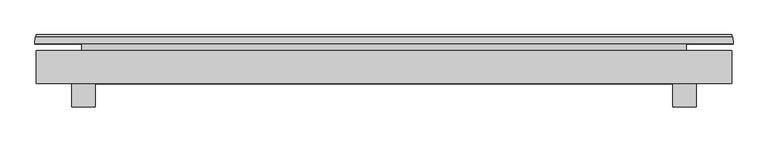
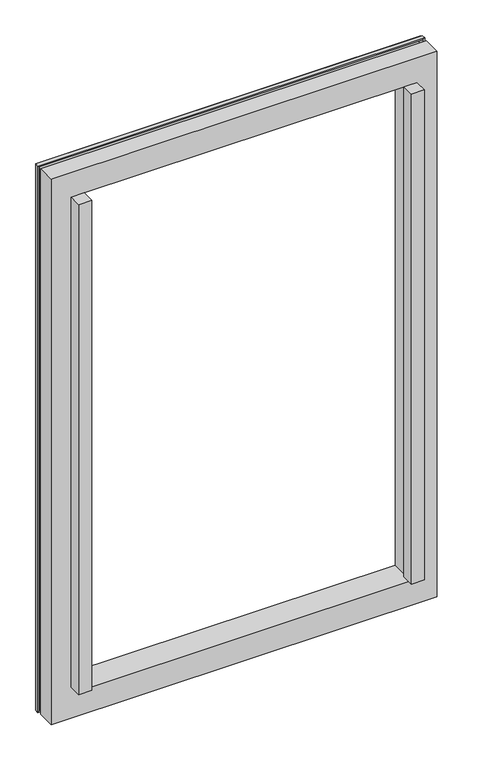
"""IFC4 building model written with IfcOpenShell, lengths in millimetres: plate geometry, Window-Profile-Danpal-NM : Window-Profile-Danpal-NM."""

from ifc_helpers import new_model, si_unit, origin, origin_with_axes, place, context, project, spatial, polyline, outline, extrude, faceted_brep, source, transform, mapped, element, save


def plate_991e255f(model_context):
    return source(origin(), model_context, "Body", "SolidModel", [
        extrude(outline(polyline([(491.2, -68.5), (531.2, -68.5), (531.2, -108.5), (491.2, -108.5), (491.2, -68.5)])), origin_with_axes(), (0.0, 0.0, 1.0), 1589.047587),
        extrude(outline(polyline([(-491.2, -68.5), (-491.2, -108.5), (-531.2, -108.5), (-531.2, -68.5), (-491.2, -68.5)])), origin_with_axes(), (0.0, 0.0, 1.0), 1589.047587),
        faceted_brep([(591.9784606, -12.2916596, 1668.8260476), (591.9784606, -68.5048031, 1668.8260476), (591.9784606, -68.5048031, -100.7784606), (591.9784606, -12.2916596, -100.7784606), (582.0282946, -13.60242, 1658.8758816), (582.0282946, -12.2916596, 1658.8758816), (582.0282946, -12.2916596, -90.8282946), (582.0282946, -13.60242, -90.8282946), (590.6582695, -27.650629, 1667.5058565), (590.6582695, -13.60242, 1667.5058565), (590.6582695, -13.60242, -99.4582695), (590.6582695, -27.650629, -99.4582695), (526.8000003, -15.804803, 1603.6475873), (526.8000003, -27.650629, 1603.6475873), (526.8000003, -27.650629, -35.6000003), (526.8000003, -15.804803, -35.6000003), (514.2000001, 7.107474, 1591.0475872), (514.2000001, -15.804803, 1591.0475872), (514.2000001, -15.804803, -23.0000001), (514.2000001, 7.107474, -23.0000001), (533.7478166, 12.307474, 1610.5954036), (533.7478166, 7.107474, 1610.5954036), (533.7478166, 7.107474, -42.5478166), (533.7478166, 12.307474, -42.5478166), (588.8478166, 11.1060971, 1665.6954036), (588.8478166, 12.307474, 1665.6954036), (588.8478166, 12.307474, -97.6478166), (588.8478166, 11.1060971, -97.6478166), (583.2577359, 9.0073407, 1660.1053229), (583.2577359, 9.0073407, -92.0577359), (588.9540801, 0.3086044, 1665.8016671), (588.9540801, 0.3086044, -97.7540801), (594.0779002, -0.4956236, 1670.9254872), (594.0779002, -0.4956236, -102.8779002), (593.3597999, 11.1306787, 1670.2073869), (593.3597999, 11.1306787, -102.1597999), (591.5474874, 14.7895984, 1668.3950744), (591.5474874, 11.1306787, 1668.3950744), (591.5474874, 11.1306787, -100.3474874), (591.5474874, 14.7895984, -100.3474874), (512.2, -68.5048031, 1589.047587), (512.2, 14.7944308, 1589.047587), (512.2, 14.7944308, -21.0), (512.2, -68.5048031, -21.0), (-591.9784606, -68.5048031, -100.7784606), (-591.9784606, -12.2916596, -100.7784606), (-582.0282946, -12.2916596, -90.8282946), (-582.0282946, -13.60242, -90.8282946), (-590.6582695, -13.60242, -99.4582695), (-590.6582695, -27.650629, -99.4582695), (-526.8000003, -27.650629, -35.6000003), (-526.8000003, -15.804803, -35.6000003), (-514.2000001, -15.804803, -23.0000001), (-514.2000001, 7.107474, -23.0000001), (-533.7478166, 7.107474, -42.5478166), (-533.7478166, 12.307474, -42.5478166), (-588.8478166, 12.307474, -97.6478166), (-588.8478166, 11.1060971, -97.6478166), (-583.2577359, 9.0073407, -92.0577359), (-588.9540801, 0.3086044, -97.7540801), (-594.0779002, -0.4956236, -102.8779002), (-593.3597999, 11.1306787, -102.1597999), (-591.5474874, 11.1306787, -100.3474874), (-591.5474874, 14.7895984, -100.3474874), (-512.2, 14.7944308, -21.0), (-512.2, -68.5048031, -21.0), (-591.9784606, -68.5048031, 1668.8260476), (-591.9784606, -12.2916596, 1668.8260476), (-582.0282946, -12.2916596, 1658.8758816), (-582.0282946, -13.60242, 1658.8758816), (-590.6582695, -13.60242, 1667.5058565), (-590.6582695, -27.650629, 1667.5058565), (-526.8000003, -27.650629, 1603.6475873), (-526.8000003, -15.804803, 1603.6475873), (-514.2000001, -15.804803, 1591.0475872), (-514.2000001, 7.107474, 1591.0475872), (-533.7478166, 7.107474, 1610.5954036), (-533.7478166, 12.307474, 1610.5954036), (-588.8478166, 12.307474, 1665.6954036), (-588.8478166, 11.1060971, 1665.6954036), (-583.2577359, 9.0073407, 1660.1053229), (-588.9540801, 0.3086044, 1665.8016671), (-594.0779002, -0.4956236, 1670.9254872), (-593.3597999, 11.1306787, 1670.2073869), (-591.5474874, 11.1306787, 1668.3950744), (-591.5474874, 14.7895984, 1668.3950744), (-512.2, 14.7944308, 1589.047587), (-512.2, -68.5048031, 1589.047587)], [[[0, 1, 2, 3]], [[4, 5, 6, 7]], [[8, 9, 10, 11]], [[12, 13, 14, 15]], [[16, 17, 18, 19]], [[20, 21, 22, 23]], [[24, 25, 26, 27]], [[28, 24, 27, 29]], [[30, 28, 29, 31]], [[32, 30, 31, 33]], [[34, 32, 33, 35]], [[36, 37, 38, 39]], [[40, 41, 42, 43]], [[3, 2, 44, 45]], [[7, 6, 46, 47]], [[11, 10, 48, 49]], [[15, 14, 50, 51]], [[19, 18, 52, 53]], [[23, 22, 54, 55]], [[27, 26, 56, 57]], [[29, 27, 57, 58]], [[31, 29, 58, 59]], [[33, 31, 59, 60]], [[35, 33, 60, 61]], [[39, 38, 62, 63]], [[43, 42, 64, 65]], [[45, 44, 66, 67]], [[47, 46, 68, 69]], [[49, 48, 70, 71]], [[51, 50, 72, 73]], [[53, 52, 74, 75]], [[55, 54, 76, 77]], [[57, 56, 78, 79]], [[58, 57, 79, 80]], [[59, 58, 80, 81]], [[60, 59, 81, 82]], [[61, 60, 82, 83]], [[63, 62, 84, 85]], [[65, 64, 86, 87]], [[1, 66, 44, 2], [43, 65, 87, 40]], [[67, 66, 1, 0]], [[3, 45, 67, 0], [5, 68, 46, 6]], [[69, 68, 5, 4]], [[9, 70, 48, 10], [7, 47, 69, 4]], [[71, 70, 9, 8]], [[11, 49, 71, 8], [13, 72, 50, 14]], [[73, 72, 13, 12]], [[15, 51, 73, 12], [17, 74, 52, 18]], [[75, 74, 17, 16]], [[21, 76, 54, 22], [19, 53, 75, 16]], [[77, 76, 21, 20]], [[25, 78, 56, 26], [23, 55, 77, 20]], [[79, 78, 25, 24]], [[80, 79, 24, 28]], [[81, 80, 28, 30]], [[82, 81, 30, 32]], [[83, 82, 32, 34]], [[35, 61, 83, 34], [37, 84, 62, 38]], [[85, 84, 37, 36]], [[39, 63, 85, 36], [41, 86, 64, 42]], [[87, 86, 41, 40]]]),
    ])


if __name__ == "__main__":
    model = new_model("IFC4")
    model_context = context("Model", 3, world=origin())
    ifc_project = project(units=[si_unit("LENGTHUNIT", "METRE", prefix="MILLI")], contexts=[model_context])
    site = spatial("IfcSite", under=ifc_project)
    building = spatial("IfcBuilding", under=site)
    placement = place(None, origin())
    plate_shape = plate_991e255f(model_context)
    element("IfcPlate", 1, ObjectType="Window-Profile-Danpal-NM : Window-Profile-Danpal-NM", at=placement, inside=building, context=model_context, shape_type="MappedRepresentation", body=[
        mapped(plate_shape, transform((0.0, 0.0, 0.0), x_axis=(1.0, 0.0, 0.0), y_axis=(0.0, 1.0, 0.0), z_axis=(0.0, 0.0, 1.0))),
    ])
    save(model, "model.ifc")
